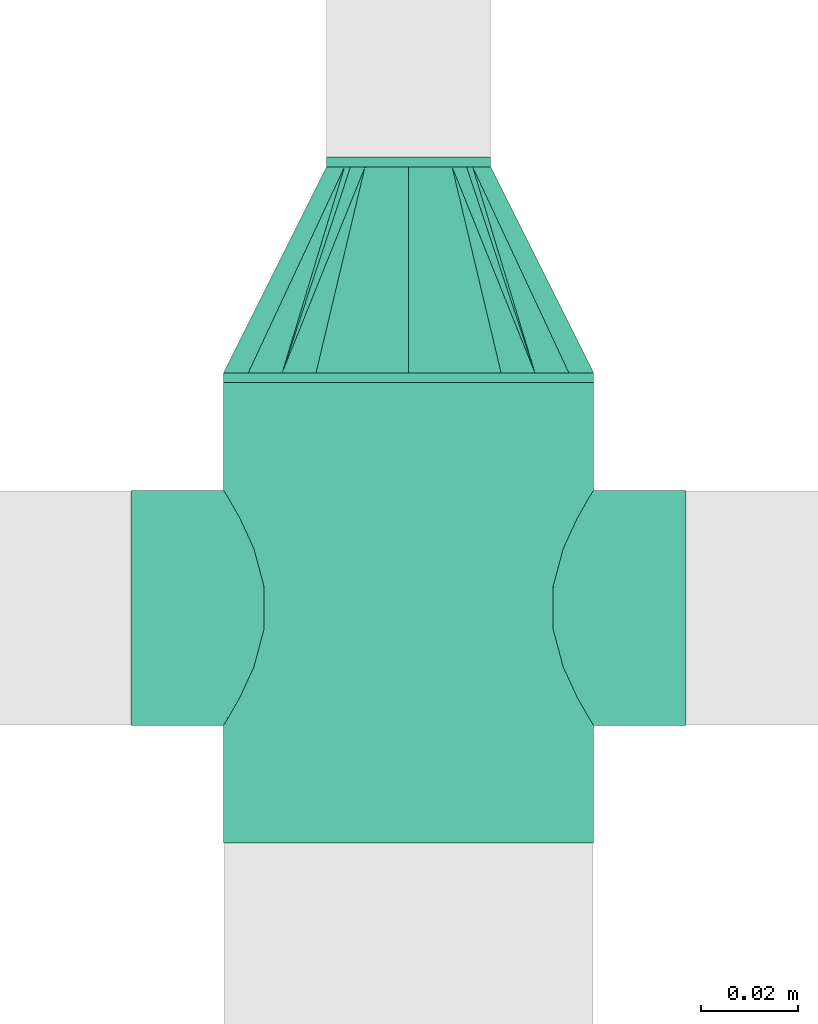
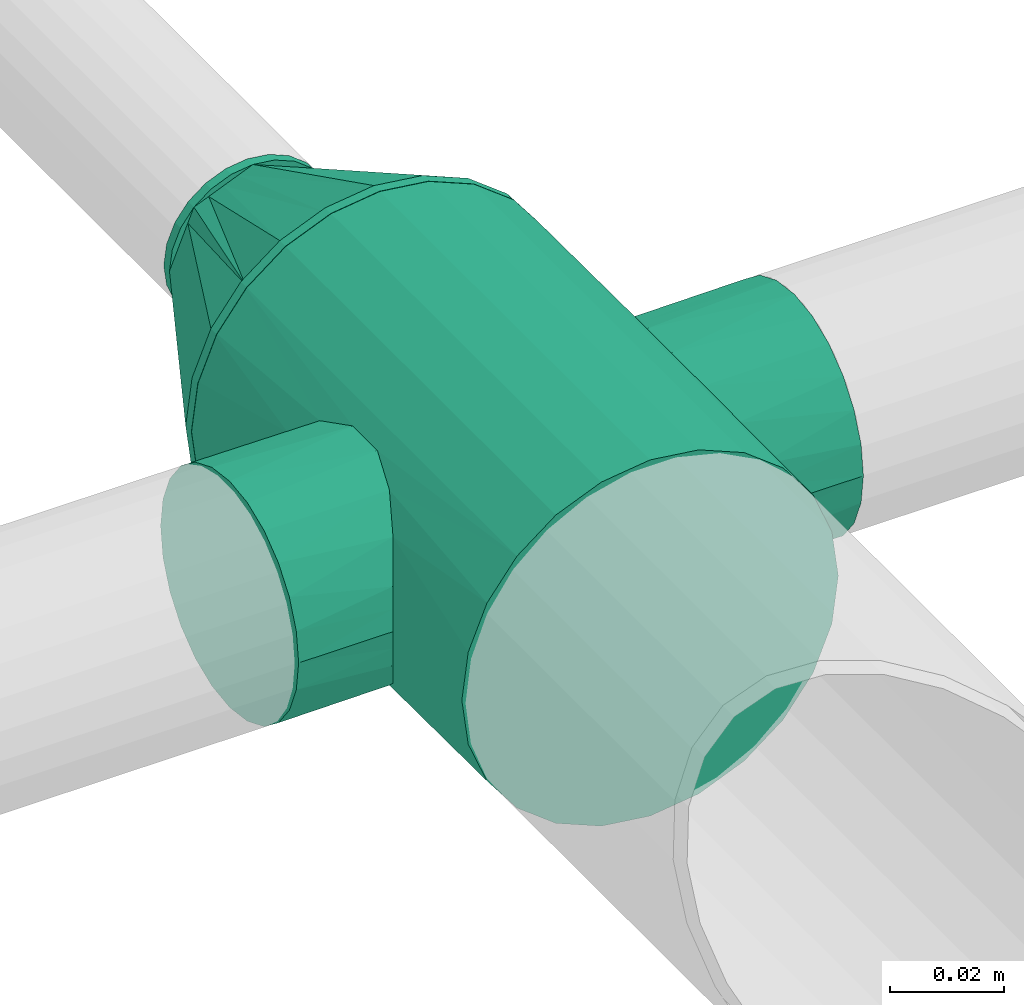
# One storey, part 43 of 45: 2 flow fittings.
"""IFC2X3 building model written with IfcOpenShell, lengths in millimetres."""

from ifc_helpers import new_model, entity, si_unit, converted_unit, derived_unit, direction, frame, origin_with_axes, place, context, subcontext, project, spatial, open_shell, surface_model, source, transform, mapped, type_object, element, save


model = new_model("IFC2X3")

# Units and contexts
model_context = context("Model", 3, precision=0.01, world=frame((0.0, 4.29681676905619e-09, 0.0)), true_north=direction((4.01073788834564e-13, 1.0)))
plan_context = context("Plan", 3, precision=0.01, world=frame((0.0, 4.29681676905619e-09, 0.0)), true_north=direction((4.01073788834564e-13, 1.0)))
body_context = subcontext(model_context, "Body", "Model", "MODEL_VIEW")
ifc_project = project(units=[converted_unit("PLANEANGLEUNIT", "DEGREE", entity("IfcPositiveLengthMeasure", 0.0174532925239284), si_unit("PLANEANGLEUNIT", "RADIAN"), dimensions=[0, 0, 0, 0, 0, 0, 0]), si_unit("AREAUNIT", "SQUARE_METRE"), si_unit("LENGTHUNIT", "METRE", prefix="MILLI"), si_unit("MASSUNIT", "GRAM", prefix="KILO"), si_unit("POWERUNIT", "WATT"), si_unit("PRESSUREUNIT", "PASCAL", prefix="KILO"), si_unit("FORCEUNIT", "NEWTON", prefix="KILO"), si_unit("ELECTRICVOLTAGEUNIT", "VOLT"), si_unit("ELECTRICCURRENTUNIT", "AMPERE"), si_unit("THERMODYNAMICTEMPERATUREUNIT", "DEGREE_CELSIUS"), si_unit("TIMEUNIT", "SECOND"), si_unit("VOLUMEUNIT", "CUBIC_METRE"), derived_unit("LINEARVELOCITYUNIT", [(si_unit("LENGTHUNIT", "METRE"), 1), (si_unit("TIMEUNIT", "SECOND"), -1)]), derived_unit("VOLUMETRICFLOWRATEUNIT", [(si_unit("VOLUMEUNIT", "CUBIC_METRE"), 1), (si_unit("TIMEUNIT", "SECOND"), -1)]), derived_unit("THERMALTRANSMITTANCEUNIT", [(si_unit("POWERUNIT", "WATT"), 1), (si_unit("THERMODYNAMICTEMPERATUREUNIT", "KELVIN"), -1), (si_unit("AREAUNIT", "SQUARE_METRE"), -1)]), derived_unit("SOUNDPRESSUREUNIT", [(si_unit("PRESSUREUNIT", "PASCAL"), 1)])], contexts=[model_context, plan_context])

# Site, building, storey
site_placement = place(None, frame((0.0, -4.29681676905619e-09, 0.0), z_axis=(0.0, 0.0, 1.0), x_axis=(1.0, 0.0, 0.0)))
site = spatial("IfcSite", under=ifc_project, at=site_placement, CompositionType="ELEMENT")
building_placement = place(site_placement, frame((0.0, 4.29681676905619e-09, 0.0), z_axis=(0.0, 0.0, 1.0), x_axis=(1.0, 0.0, 0.0)))
building = spatial("IfcBuilding", under=site, at=building_placement, Name="mc-building", CompositionType="ELEMENT")
storey_placement = place(building_placement, frame((0.0, 0.0, 210200.0), z_axis=(0.0, 0.0, 1.0), x_axis=(1.0, 0.0, 0.0)))
storey = spatial("IfcBuildingStorey", under=building, at=storey_placement, Name="Nivå F - 0,7 m", CompositionType="ELEMENT", Elevation=210200.0)

# Flow fittings
pipe_fitting_type_1 = type_object("IfcPipeFittingType", Name="magi_pipe_fe_cross_centric_90_001", PredefinedType="JUNCTION")
shared_shape_1 = source(origin_with_axes(), body_context, "Body", "SurfaceModel", [
    surface_model("IfcShellBasedSurfaceModel", [(-48.4, 9.86101, -36.80177), (-48.4, 0.0, -38.1), (-48.4, 36.80177, -9.86101), (-48.4, 19.05, -32.99557), (-48.4, 32.99557, -19.05), (-48.4, 26.94077, -26.94077), (-48.4, -38.1, 0.0), (-48.4, -19.05, -32.99557), (-48.4, -26.94077, -26.94077), (-48.4, -9.86101, -36.80177), (-48.4, -32.99557, -19.05), (-48.4, -36.80177, -9.86101), (-48.4, 38.1, 0.0), (-48.4, 32.99557, 19.05), (-48.4, 36.80177, 9.86101), (-48.4, -36.80177, 9.86101), (-48.4, 19.05, 32.99557), (-48.4, 26.94077, 26.94077), (-48.4, 9.86101, 36.80177), (-48.4, 0.0, 38.1), (-48.4, -26.94077, 26.94077), (-48.4, -32.99557, 19.05), (-48.4, -9.86101, 36.80177), (-48.4, -19.05, 32.99557), (48.4, 0.0, -38.1), (48.4, 9.86101, -36.80177), (48.4, 19.05, -32.99557), (48.4, 26.94077, -26.94077), (48.4, 32.99557, -19.05), (48.4, 36.80177, -9.86101), (48.4, -26.94077, -26.94077), (48.4, -38.1, 0.0), (48.4, -9.86101, -36.80177), (48.4, -19.05, -32.99557), (48.4, -32.99557, -19.05), (48.4, -36.80177, -9.86101), (48.4, 36.80177, 9.86101), (48.4, 32.99557, 19.05), (48.4, 19.05, 32.99557), (48.4, 0.0, 38.1), (48.4, 26.94077, 26.94077), (48.4, 9.86101, 36.80177), (48.4, -32.99557, 19.05), (48.4, -26.94077, 26.94077), (48.4, -36.80177, 9.86101), (48.4, -19.05, 32.99557), (48.4, -9.86101, 36.80177), (48.4, 38.1, 0.0), (22.67163, -37.14799, 8.46387), (24.2, -38.1, 0.0), (-18.46661, -34.7417, 15.64047), (-48.4, -34.89867, 14.4555), (-24.2, -38.1, 0.0), (-22.67247, -37.1485, 8.46164), (-12.20341, -31.85739, 20.89777), (-4.32227, -29.7431, 23.81088), (4.31503, -29.74205, 23.81219), (18.4612, -34.73882, 15.64686), (48.4, -34.89867, 14.4555), (12.20123, -31.85656, -20.89904), (-18.46661, -34.7417, -15.64047), (-48.4, -34.89867, -14.4555), (18.4612, -34.73882, -15.64686), (4.31503, -29.74205, -23.81219), (22.67163, -37.14799, -8.46387), (-4.32227, -29.7431, -23.81088), (-12.20341, -31.85739, -20.89777), (48.4, -34.89867, -14.4555), (-22.67247, -37.1485, -8.46164), (0.0, -57.15, -24.2), (6.26342, -57.15, -23.37541), (12.1, -57.15, -20.95781), (12.1, -57.15, 20.95781), (17.11198, -57.15, -17.11198), (20.95781, -57.15, -12.1), (23.37541, -57.15, -6.26342), (-12.1, -57.15, -20.95781), (-20.95781, -57.15, -12.1), (-17.11198, -57.15, -17.11198), (-6.26342, -57.15, -23.37541), (-23.37541, -57.15, -6.26342), (-24.2, -57.15, 0.0), (24.2, -57.15, 0.0), (23.37541, -57.15, 6.26342), (20.95781, -57.15, 12.1), (-23.37541, -57.15, 6.26342), (17.11198, -57.15, 17.11198), (6.26342, -57.15, 23.37541), (-17.11198, -57.15, 17.11198), (-20.95781, -57.15, 12.1), (-12.1, -57.15, 20.95781), (0.0, -57.15, 24.2), (-6.26342, -57.15, 23.37541), (-23.43623, -37.62425, 4.23082), (-0.00362, -29.74257, 23.81153), (8.25813, -30.7993, 22.35562), (23.43582, -37.62399, 4.23193), (12.20123, -31.85656, 20.89904), (23.43582, -37.62399, -4.23193), (-23.43623, -37.62425, -4.23082), (8.25813, -30.7993, -22.35562), (-0.00362, -29.74257, -23.81153), (12.1, 57.15, -20.95781), (6.26342, 57.15, -23.37541), (0.0, 57.15, -24.2), (-6.26342, 57.15, -23.37541), (-12.1, 57.15, -20.95781), (18.46661, 34.7417, 15.64047), (48.4, 34.89867, 14.4555), (12.20341, 31.85739, 20.89777), (4.32227, 29.7431, 23.81088), (22.67247, 37.1485, 8.46164), (24.2, 38.1, 0.0), (-18.4612, 34.73882, 15.64686), (-48.4, 34.89867, 14.4555), (-4.31503, 29.74205, 23.81219), (-12.20123, 31.85656, 20.89904), (-22.67163, 37.14799, 8.46387), (-24.2, 38.1, 0.0), (22.67247, 37.1485, -8.46164), (18.46661, 34.7417, -15.64047), (48.4, 34.89867, -14.4555), (-4.31503, 29.74205, -23.81219), (4.32227, 29.7431, -23.81088), (12.20341, 31.85739, -20.89777), (-22.67163, 37.14799, -8.46387), (-18.4612, 34.73882, -15.64686), (-48.4, 34.89867, -14.4555), (-12.20123, 31.85656, -20.89904), (-17.11198, 57.15, -17.11198), (-12.1, 57.15, 20.95781), (-20.95781, 57.15, -12.1), (17.11198, 57.15, 17.11198), (20.95781, 57.15, -12.1), (17.11198, 57.15, -17.11198), (23.37541, 57.15, -6.26342), (24.2, 57.15, 0.0), (-23.37541, 57.15, -6.26342), (-24.2, 57.15, 0.0), (-23.37541, 57.15, 6.26342), (-20.95781, 57.15, 12.1), (-6.26342, 57.15, 23.37541), (-17.11198, 57.15, 17.11198), (20.95781, 57.15, 12.1), (23.37541, 57.15, 6.26342), (12.1, 57.15, 20.95781), (0.0, 57.15, 24.2), (6.26342, 57.15, 23.37541), (23.43623, 37.62425, 4.23082), (0.00362, 29.74257, 23.81153), (-8.25813, 30.7993, 22.35562), (-23.43582, 37.62399, 4.23193), (-23.43582, 37.62399, -4.23193), (23.43623, 37.62425, -4.23082), (-8.25813, 30.7993, -22.35562), (0.00362, 29.74257, -23.81153)], [open_shell([[[0, 1, 2]], [[3, 0, 2]], [[2, 4, 5]], [[3, 2, 5]], [[6, 2, 1]], [[7, 8, 9]], [[8, 1, 9]], [[10, 11, 8]], [[6, 8, 11]], [[8, 6, 1]], [[6, 12, 2]], [[13, 14, 12]], [[13, 12, 15]], [[16, 13, 15]], [[17, 13, 16]], [[18, 16, 19]], [[20, 19, 21]], [[16, 15, 21]], [[22, 19, 23]], [[20, 23, 19]], [[21, 19, 16]], [[6, 15, 12]], [[24, 25, 26]], [[24, 26, 27]], [[27, 28, 29]], [[24, 27, 30]], [[31, 27, 29]], [[32, 30, 33]], [[32, 24, 30]], [[34, 31, 35]], [[31, 34, 30]], [[27, 31, 30]], [[29, 36, 31]], [[36, 37, 31]], [[31, 37, 38]], [[38, 39, 31]], [[38, 37, 40]], [[39, 38, 41]], [[42, 39, 43]], [[44, 31, 42]], [[45, 39, 46]], [[39, 45, 43]], [[39, 42, 31]], [[36, 29, 47]], [[31, 44, 48]], [[48, 49, 31]], [[50, 21, 51]], [[52, 53, 6]], [[53, 50, 15]], [[54, 55, 20]], [[55, 56, 20]], [[57, 44, 58]], [[18, 39, 41]], [[17, 38, 40]], [[45, 23, 43]], [[26, 3, 27]], [[26, 0, 3]], [[33, 8, 7]], [[30, 34, 59]], [[60, 11, 61]], [[34, 62, 59]], [[30, 63, 8]], [[64, 62, 35]], [[49, 64, 31]], [[65, 66, 8]], [[62, 34, 67]], [[60, 68, 11]], [[60, 61, 10]], [[69, 70, 71]], [[72, 69, 71]], [[73, 74, 75]], [[73, 75, 71]], [[72, 76, 69]], [[76, 77, 78]], [[76, 79, 69]], [[76, 80, 77]], [[80, 76, 81]], [[76, 72, 81]], [[82, 71, 75]], [[82, 83, 84]], [[82, 84, 72]], [[72, 85, 81]], [[72, 84, 86]], [[85, 72, 87]], [[85, 88, 89]], [[85, 87, 88]], [[90, 91, 92]], [[91, 90, 88]], [[87, 91, 88]], [[72, 71, 82]], [[85, 93, 81]], [[50, 89, 88]], [[85, 89, 53]], [[88, 90, 54]], [[93, 52, 81]], [[53, 89, 50]], [[54, 92, 55]], [[54, 50, 88]], [[91, 56, 94]], [[54, 90, 92]], [[72, 95, 87]], [[96, 82, 49]], [[85, 53, 93]], [[87, 56, 91]], [[48, 84, 83]], [[96, 48, 83]], [[84, 57, 86]], [[91, 55, 92]], [[95, 56, 87]], [[72, 97, 95]], [[72, 86, 97]], [[97, 86, 57]], [[57, 84, 48]], [[82, 96, 83]], [[94, 55, 91]], [[75, 98, 82]], [[62, 74, 73]], [[99, 68, 80]], [[75, 74, 64]], [[73, 71, 59]], [[98, 49, 82]], [[64, 74, 62]], [[70, 63, 100]], [[59, 62, 73]], [[69, 65, 101]], [[69, 63, 70]], [[100, 59, 71]], [[100, 71, 70]], [[75, 64, 98]], [[66, 76, 78]], [[66, 79, 76]], [[68, 77, 80]], [[78, 77, 60]], [[99, 81, 52]], [[65, 69, 79]], [[79, 66, 65]], [[101, 63, 69]], [[66, 78, 60]], [[60, 77, 68]], [[81, 99, 80]], [[102, 103, 104]], [[104, 105, 106]], [[57, 48, 44]], [[58, 42, 57]], [[20, 56, 43]], [[43, 97, 42]], [[97, 43, 56]], [[42, 97, 57]], [[45, 46, 22]], [[107, 37, 108]], [[53, 15, 6]], [[15, 50, 51]], [[50, 54, 21]], [[54, 20, 21]], [[23, 20, 43]], [[45, 22, 23]], [[46, 19, 22]], [[46, 39, 19]], [[38, 16, 41]], [[40, 109, 110]], [[40, 37, 109]], [[107, 108, 36]], [[111, 36, 47]], [[111, 107, 36]], [[112, 111, 47]], [[37, 107, 109]], [[113, 14, 114]], [[115, 17, 40]], [[115, 116, 17]], [[16, 18, 41]], [[38, 17, 16]], [[116, 13, 17]], [[110, 115, 40]], [[117, 118, 12]], [[113, 117, 14]], [[113, 114, 13]], [[14, 117, 12]], [[113, 13, 116]], [[39, 18, 19]], [[47, 29, 119]], [[119, 112, 47]], [[120, 119, 29]], [[121, 28, 120]], [[122, 123, 27]], [[27, 124, 28]], [[124, 27, 123]], [[28, 124, 120]], [[26, 25, 0]], [[120, 29, 121]], [[125, 126, 2]], [[118, 125, 12]], [[125, 2, 12]], [[2, 126, 127]], [[126, 128, 4]], [[128, 122, 5]], [[122, 27, 5]], [[128, 5, 4]], [[3, 5, 27]], [[25, 1, 0]], [[25, 24, 1]], [[8, 33, 30]], [[9, 24, 32]], [[33, 7, 32]], [[30, 59, 63]], [[62, 67, 35]], [[64, 35, 31]], [[126, 4, 127]], [[63, 65, 8]], [[7, 9, 32]], [[66, 10, 8]], [[68, 52, 6]], [[11, 68, 6]], [[60, 10, 66]], [[24, 9, 1]], [[104, 106, 129]], [[130, 129, 131]], [[104, 129, 130]], [[132, 102, 104]], [[102, 133, 134]], [[102, 135, 133]], [[135, 102, 136]], [[102, 132, 136]], [[137, 130, 131]], [[138, 139, 140]], [[138, 140, 130]], [[141, 104, 130]], [[130, 140, 142]], [[141, 132, 104]], [[136, 143, 144]], [[132, 143, 136]], [[145, 146, 147]], [[146, 145, 132]], [[141, 146, 132]], [[130, 137, 138]], [[144, 148, 136]], [[107, 143, 132]], [[144, 143, 111]], [[132, 145, 109]], [[148, 112, 136]], [[111, 143, 107]], [[109, 147, 110]], [[109, 107, 132]], [[146, 115, 149]], [[109, 145, 147]], [[130, 150, 141]], [[151, 138, 118]], [[144, 111, 148]], [[141, 115, 146]], [[117, 140, 139]], [[151, 117, 139]], [[140, 113, 142]], [[146, 110, 147]], [[150, 115, 141]], [[130, 116, 150]], [[130, 142, 116]], [[116, 142, 113]], [[113, 140, 117]], [[138, 151, 139]], [[149, 110, 146]], [[137, 152, 138]], [[126, 131, 129]], [[153, 119, 135]], [[137, 131, 125]], [[129, 106, 128]], [[152, 118, 138]], [[125, 131, 126]], [[105, 122, 154]], [[128, 126, 129]], [[104, 123, 155]], [[104, 122, 105]], [[154, 128, 106]], [[154, 106, 105]], [[137, 125, 152]], [[124, 102, 134]], [[124, 103, 102]], [[119, 133, 135]], [[134, 133, 120]], [[153, 136, 112]], [[123, 104, 103]], [[103, 124, 123]], [[155, 122, 104]], [[124, 134, 120]], [[120, 133, 119]], [[136, 153, 135]]])]),
])
flow_fitting_1_placement = place(storey_placement, frame((341657.5, 462235.84736, 2810.44542), z_axis=(0.0, 0.0, 1.0), x_axis=(0.0, 1.0, 0.0)))
element("IfcFlowFitting", 1, at=flow_fitting_1_placement, inside=storey, type_object=pipe_fitting_type_1, Name="magi_pipe_fe_cross_centric_90_001", context=body_context, shape_type="MappedRepresentation", body=[
    mapped(shared_shape_1, transform((0.0, 0.0, 0.0), scale=1.0)),
])
pipe_fitting_type_2 = type_object("IfcPipeFittingType", Name="magi_pipe_fe_reducer_centric_short_001", PredefinedType="TRANSITION")
shared_shape_2 = source(origin_with_axes(), body_context, "Body", "SurfaceModel", [
    surface_model("IfcShellBasedSurfaceModel", [(44.4, 4.37404, -16.32415), (44.4, 8.45, -14.63583), (44.4, 11.9501, -11.9501), (44.4, -8.45, -14.63583), (44.4, 16.32415, -4.37404), (44.4, 16.32415, 4.37404), (44.4, 14.63583, -8.45), (44.4, 0.0, -16.9), (44.4, -4.37404, -16.32415), (44.4, -11.9501, -11.9501), (44.4, -16.32415, -4.37404), (44.4, -14.63583, -8.45), (44.4, -16.32415, 4.37404), (44.4, 16.9, 0.0), (44.4, 14.63583, 8.45), (44.4, 11.9501, 11.9501), (44.4, 4.37404, 16.32415), (44.4, 0.0, 16.9), (44.4, 8.45, 14.63583), (44.4, -4.37404, 16.32415), (44.4, -14.63583, 8.45), (44.4, -16.9, 0.0), (44.4, -8.45, 14.63583), (44.4, -11.9501, 11.9501), (42.4, 4.37404, 16.32415), (42.4, -14.63583, 8.45), (42.4, 0.0, 16.9), (42.4, 16.32415, 4.37404), (42.4, 8.45, 14.63583), (42.4, 11.9501, 11.9501), (42.4, 14.63583, 8.45), (42.4, -8.45, 14.63583), (42.4, -11.9501, 11.9501), (42.4, -4.37404, 16.32415), (42.4, -16.32415, 4.37404), (42.4, -16.32415, -4.37404), (42.4, -16.9, 0.0), (42.4, -8.45, -14.63583), (42.4, 16.32415, -4.37404), (42.4, 11.9501, -11.9501), (42.4, 14.63583, -8.45), (42.4, 8.45, -14.63583), (42.4, 4.37404, -16.32415), (42.4, 0.0, -16.9), (42.4, -11.9501, -11.9501), (42.4, -14.63583, -8.45), (42.4, -4.37404, -16.32415), (42.4, 16.9, 0.0), (-2.0, 9.86101, 36.80177), (-2.0, -38.1, 0.0), (-2.0, 0.0, 38.1), (-2.0, 26.94077, 26.94077), (-2.0, 19.05, 32.99557), (-2.0, 32.99557, 19.05), (-2.0, 36.80177, 9.86101), (-2.0, -9.86101, 36.80177), (-2.0, -26.94077, 26.94077), (-2.0, -19.05, 32.99557), (-2.0, -32.99557, 19.05), (-2.0, -36.80177, 9.86101), (-2.0, 36.80177, -9.86101), (-2.0, -32.99557, -19.05), (-2.0, 9.86101, -36.80177), (-2.0, 32.99557, -19.05), (-2.0, 26.94077, -26.94077), (-2.0, 19.05, -32.99557), (-2.0, -26.94077, -26.94077), (-2.0, -36.80177, -9.86101), (-2.0, -19.05, -32.99557), (-2.0, 0.0, -38.1), (-2.0, -9.86101, -36.80177), (-2.0, 38.1, 0.0), (0.0, 9.86101, -36.80177), (0.0, 19.05, -32.99557), (0.0, 26.94077, -26.94077), (0.0, 36.80177, -9.86101), (0.0, -26.94077, -26.94077), (0.0, 32.99557, -19.05), (0.0, -38.1, 0.0), (0.0, 0.0, -38.1), (0.0, -19.05, -32.99557), (0.0, -9.86101, -36.80177), (0.0, -32.99557, -19.05), (0.0, -36.80177, -9.86101), (0.0, 38.1, 0.0), (0.0, 36.80177, 9.86101), (0.0, 32.99557, 19.05), (0.0, 26.94077, 26.94077), (0.0, 0.0, 38.1), (0.0, 9.86101, 36.80177), (0.0, 19.05, 32.99557), (0.0, -9.86101, 36.80177), (0.0, -32.99557, 19.05), (0.0, -36.80177, 9.86101), (0.0, -26.94077, 26.94077), (0.0, -19.05, 32.99557), (0.0, 26.02278, -26.02278), (42.4, 13.18758, -8.96258), (42.4, 14.42505, -5.97505), (42.4, 5.97505, -14.42505), (0.0, 9.525, -35.54778), (42.4, 2.98753, -15.66253), (0.0, 35.54778, -9.525), (42.4, -5.97505, -14.42505), (42.4, -8.96258, -13.18758), (42.4, -2.98753, -15.66253), (42.4, 8.96258, -13.18758), (42.4, -13.18758, -8.96258), (0.0, -26.02278, -26.02278), (42.4, -15.66253, -2.98753), (0.0, -35.54778, -9.525), (42.4, 15.66253, -2.98753), (0.0, -9.525, -35.54778), (42.4, -14.42505, -5.97505), (0.0, -26.02278, 26.02278), (42.4, -13.18758, 8.96258), (42.4, -14.42505, 5.97505), (42.4, -5.97505, 14.42505), (0.0, -9.525, 35.54778), (42.4, -2.98753, 15.66253), (0.0, -35.54778, 9.525), (42.4, 5.97505, 14.42505), (42.4, 8.96258, 13.18758), (42.4, 2.98753, 15.66253), (42.4, -8.96258, 13.18758), (42.4, 13.18758, 8.96258), (0.0, 26.02278, 26.02278), (42.4, 15.66253, 2.98753), (0.0, 35.54778, 9.525), (42.4, -15.66253, 2.98753), (0.0, 9.525, 35.54778), (42.4, 14.42505, 5.97505)], [open_shell([[[0, 1, 2]], [[3, 0, 2]], [[2, 4, 5]], [[4, 2, 6]], [[2, 5, 3]], [[7, 3, 8]], [[7, 0, 3]], [[9, 10, 11]], [[10, 9, 3]], [[3, 12, 10]], [[5, 4, 13]], [[5, 14, 15]], [[5, 15, 16]], [[16, 17, 5]], [[16, 15, 18]], [[5, 17, 19]], [[5, 20, 12]], [[21, 10, 12]], [[20, 22, 23]], [[22, 20, 19]], [[19, 20, 5]], [[12, 3, 5]], [[24, 25, 26]], [[27, 24, 28]], [[29, 30, 27]], [[29, 27, 28]], [[25, 24, 27]], [[31, 25, 32]], [[31, 33, 26]], [[26, 25, 31]], [[34, 25, 27]], [[34, 35, 36]], [[34, 27, 37]], [[27, 38, 39]], [[39, 38, 40]], [[39, 41, 42]], [[37, 27, 39]], [[42, 43, 39]], [[35, 44, 45]], [[44, 35, 37]], [[37, 43, 46]], [[35, 34, 37]], [[39, 43, 37]], [[38, 27, 47]], [[35, 10, 36]], [[45, 11, 35]], [[3, 44, 37]], [[45, 44, 9]], [[8, 37, 46]], [[35, 11, 10]], [[10, 21, 36]], [[8, 3, 37]], [[9, 44, 3]], [[9, 11, 45]], [[7, 8, 46]], [[46, 43, 7]], [[42, 0, 43]], [[41, 1, 42]], [[6, 39, 40]], [[41, 39, 2]], [[4, 40, 38]], [[41, 2, 1]], [[1, 0, 42]], [[13, 4, 38]], [[6, 40, 4]], [[6, 2, 39]], [[47, 13, 38]], [[43, 0, 7]], [[27, 5, 47]], [[30, 14, 27]], [[18, 29, 28]], [[30, 29, 15]], [[16, 28, 24]], [[27, 14, 5]], [[5, 13, 47]], [[16, 18, 28]], [[15, 29, 18]], [[15, 14, 30]], [[17, 16, 24]], [[24, 26, 17]], [[33, 19, 26]], [[31, 22, 33]], [[20, 32, 25]], [[31, 32, 23]], [[12, 25, 34]], [[31, 23, 22]], [[22, 19, 33]], [[21, 12, 34]], [[20, 25, 12]], [[20, 23, 32]], [[36, 21, 34]], [[26, 19, 17]], [[48, 49, 50]], [[51, 48, 52]], [[51, 53, 54]], [[51, 54, 48]], [[49, 48, 54]], [[55, 56, 57]], [[56, 55, 58]], [[58, 49, 59]], [[49, 58, 55]], [[55, 50, 49]], [[54, 60, 49]], [[61, 49, 60]], [[62, 60, 63]], [[64, 65, 62]], [[64, 62, 63]], [[61, 60, 62]], [[62, 66, 61]], [[67, 49, 61]], [[68, 69, 70]], [[68, 66, 62]], [[68, 62, 69]], [[54, 71, 60]], [[72, 73, 74]], [[72, 74, 75]], [[72, 75, 76]], [[75, 74, 77]], [[76, 75, 78]], [[79, 80, 81]], [[79, 72, 80]], [[76, 80, 72]], [[76, 78, 82]], [[82, 78, 83]], [[75, 84, 85]], [[85, 86, 87]], [[85, 87, 88]], [[89, 88, 87]], [[89, 87, 90]], [[85, 88, 91]], [[78, 92, 93]], [[92, 78, 91]], [[94, 91, 95]], [[91, 94, 92]], [[78, 85, 91]], [[85, 78, 75]], [[67, 83, 49]], [[61, 82, 67]], [[80, 66, 68]], [[61, 66, 76]], [[81, 68, 70]], [[67, 82, 83]], [[83, 78, 49]], [[81, 80, 68]], [[76, 66, 80]], [[76, 82, 61]], [[79, 81, 70]], [[70, 69, 79]], [[62, 72, 69]], [[65, 73, 62]], [[77, 64, 63]], [[65, 64, 74]], [[75, 63, 60]], [[65, 74, 73]], [[73, 72, 62]], [[84, 75, 60]], [[77, 63, 75]], [[77, 74, 64]], [[71, 84, 60]], [[69, 72, 79]], [[54, 85, 71]], [[53, 86, 54]], [[90, 51, 52]], [[53, 51, 87]], [[89, 52, 48]], [[54, 86, 85]], [[85, 84, 71]], [[89, 90, 52]], [[87, 51, 90]], [[87, 86, 53]], [[88, 89, 48]], [[48, 50, 88]], [[55, 91, 50]], [[57, 95, 55]], [[92, 56, 58]], [[57, 56, 94]], [[93, 58, 59]], [[57, 94, 95]], [[95, 91, 55]], [[78, 93, 59]], [[92, 58, 93]], [[92, 94, 56]], [[49, 78, 59]], [[50, 91, 88]], [[26, 32, 47]], [[47, 29, 26]], [[32, 44, 47]], [[43, 47, 44]], [[39, 47, 43]], [[44, 32, 36]], [[95, 88, 90]], [[78, 90, 86]], [[95, 78, 92]], [[78, 95, 90]], [[86, 79, 78]], [[77, 73, 86]], [[73, 79, 86]], [[78, 80, 82]], [[78, 79, 80]], [[84, 77, 86]], [[96, 97, 39]], [[77, 98, 97]], [[99, 100, 73]], [[101, 79, 100]], [[98, 77, 102]], [[80, 103, 104]], [[105, 79, 43]], [[100, 99, 101]], [[77, 97, 96]], [[106, 99, 73]], [[107, 108, 44]], [[101, 43, 79]], [[44, 108, 104]], [[78, 109, 36]], [[96, 106, 73]], [[109, 78, 110]], [[102, 111, 98]], [[47, 111, 84]], [[79, 105, 112]], [[107, 113, 82]], [[84, 111, 102]], [[110, 113, 109]], [[82, 113, 110]], [[103, 80, 112]], [[106, 96, 39]], [[108, 107, 82]], [[80, 104, 108]], [[105, 103, 112]], [[114, 115, 32]], [[92, 116, 115]], [[117, 118, 95]], [[119, 88, 118]], [[116, 92, 120]], [[90, 121, 122]], [[123, 88, 26]], [[118, 117, 119]], [[92, 115, 114]], [[124, 117, 95]], [[125, 126, 29]], [[119, 26, 88]], [[29, 126, 122]], [[84, 127, 47]], [[114, 124, 95]], [[127, 84, 128]], [[120, 129, 116]], [[36, 129, 78]], [[88, 123, 130]], [[125, 131, 86]], [[78, 129, 120]], [[128, 131, 127]], [[86, 131, 128]], [[121, 90, 130]], [[124, 114, 32]], [[126, 125, 86]], [[90, 122, 126]], [[123, 121, 130]]])]),
])
flow_fitting_2_placement = place(storey_placement, frame((341657.5, 462284.24736, 2810.44542), z_axis=(0.0, 0.0, 1.0), x_axis=(0.0, 1.0, 0.0)))
element("IfcFlowFitting", 2, at=flow_fitting_2_placement, inside=storey, type_object=pipe_fitting_type_2, Name="magi_pipe_fe_reducer_centric_short_001", context=body_context, shape_type="MappedRepresentation", body=[
    mapped(shared_shape_2, transform((0.0, 0.0, 0.0), scale=1.0)),
])

save(model, "model.ifc")
